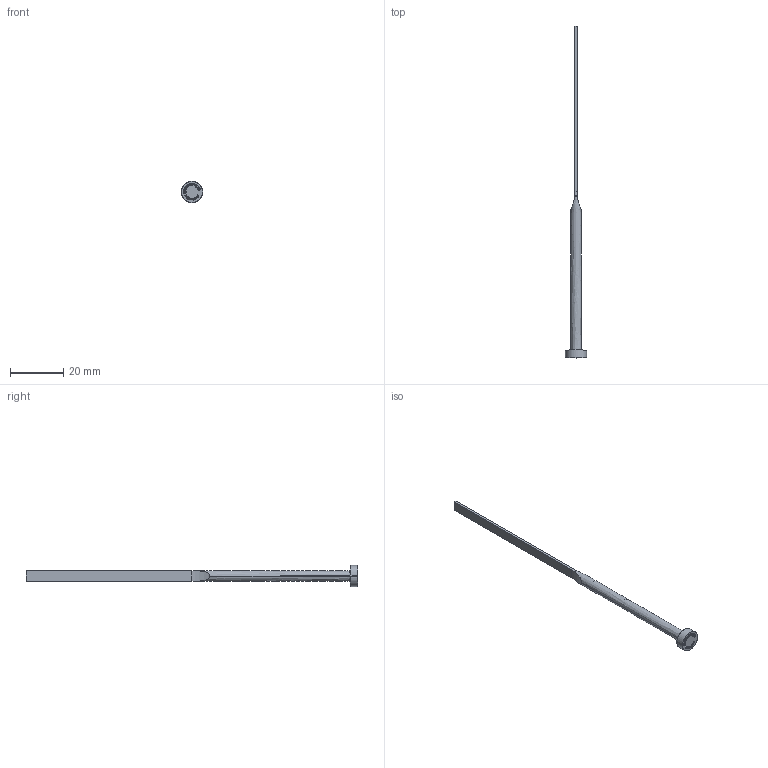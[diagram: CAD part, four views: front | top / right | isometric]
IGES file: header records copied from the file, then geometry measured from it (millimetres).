
Start section: SolidWorks IGES file using analytic representation for surfaces
Global section: file name: D:\Cleonir_particular\Matripeças\Lâmina Extratoras\LE0,803,8125.IGS; native system: SolidWorks 2013; preprocessor: SolidWorks 2013; author: Cleonir; date: 130305.130510; units: millimetre
Bounding box: 8 x 125 x 8 mm (x, y, z)
Surface area: 1498.2 mm2 (no closed solid volume)
Topology: 0 solids, 0 shells, 338 faces, 3357 edges, 3357 vertices
Faces by surface type: bspline 319, revolution 19
